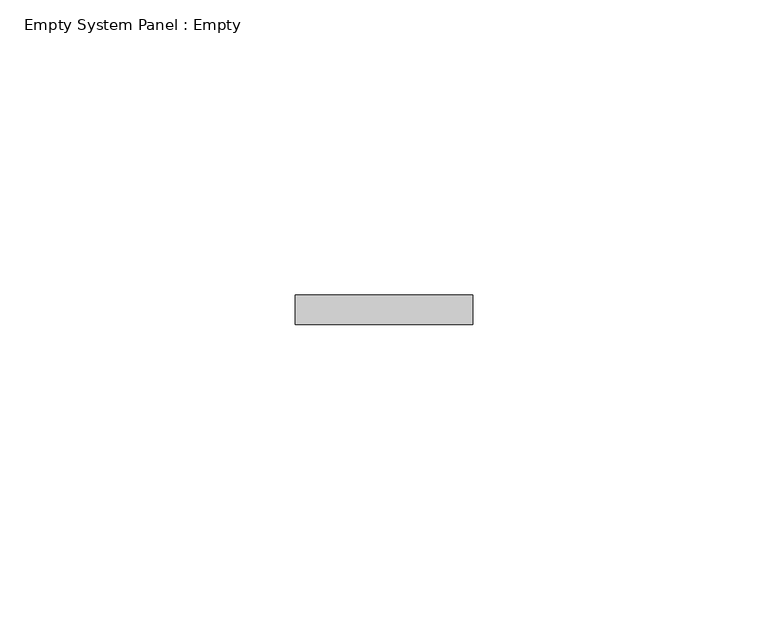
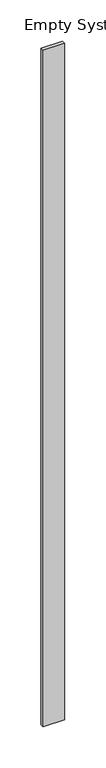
"""IFC4 building model written with IfcOpenShell, lengths in millimetres: plate geometry, Empty System Panel : Empty."""

from ifc_helpers import new_model, si_unit, origin, origin_with_axes, place, context, project, spatial, polyline, outline, extrude, source, transform, mapped, element, save


def empty_system_panel_empty_2bdb7733(model_context):
    return source(origin(), model_context, "Body", "SweptSolid", [
        extrude(outline(polyline([(15.0, -102.5), (-15.0, -102.5), (-15.0, -97.5), (15.0, -97.5), (15.0, -102.5)])), origin_with_axes(), (0.0, 0.0, 1.0), 1000.0),
    ])


if __name__ == "__main__":
    model = new_model("IFC4")
    model_context = context("Model", 3, world=origin())
    ifc_project = project(units=[si_unit("LENGTHUNIT", "METRE", prefix="MILLI")], contexts=[model_context])
    site = spatial("IfcSite", under=ifc_project)
    building = spatial("IfcBuilding", under=site)
    placement = place(None, origin())
    empty_system_panel_empty_shape = empty_system_panel_empty_2bdb7733(model_context)
    element("IfcPlate", 1, ObjectType="Empty System Panel : Empty", at=placement, inside=building, context=model_context, shape_type="MappedRepresentation", body=[
        mapped(empty_system_panel_empty_shape, transform((0.0, 0.0, 0.0), x_axis=(1.0, 0.0, 0.0), y_axis=(0.0, 1.0, 0.0), z_axis=(0.0, 0.0, 1.0))),
    ])
    save(model, "model.ifc")
